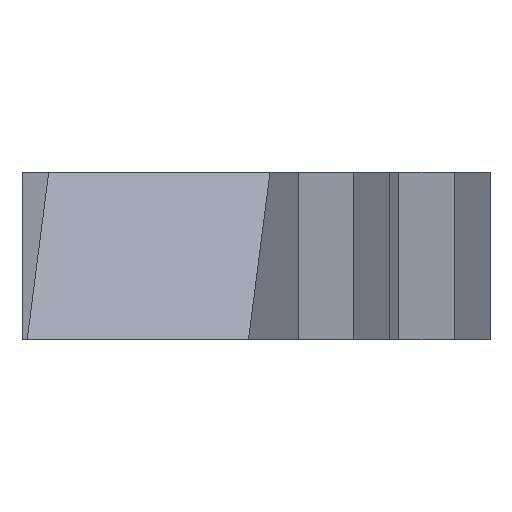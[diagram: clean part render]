
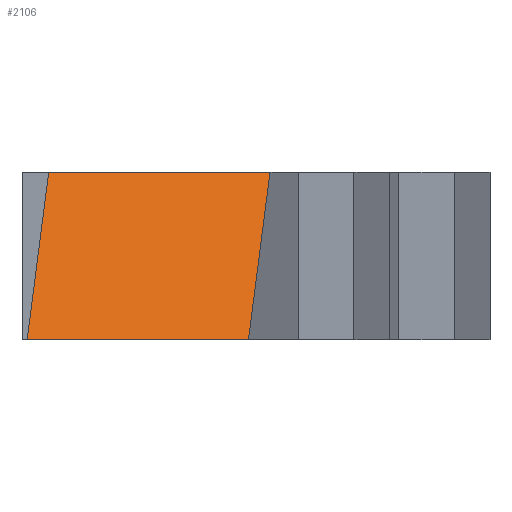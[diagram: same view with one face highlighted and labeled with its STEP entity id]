
A CAD part, left-side view. The second image highlights one B-rep face of the part: STEP entity #2106.
In plain terms, the highlighted planar face has unit normal (-0.701, 0.091, 0.707).
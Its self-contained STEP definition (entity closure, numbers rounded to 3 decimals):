
#1091 = PLANE('',#1092);
#1092 = AXIS2_PLACEMENT_3D('',#1093,#1094,#1095);
#1093 = CARTESIAN_POINT('',(-32.644,4.209,-5.75));
#1094 = DIRECTION('',(0.,0.,1.));
#1095 = DIRECTION('',(0.992,-0.128,0.));
#1250 = PLANE('',#1251);
#1251 = AXIS2_PLACEMENT_3D('',#1252,#1253,#1254);
#1252 = CARTESIAN_POINT('',(-32.644,4.209,-2.75));
#1253 = DIRECTION('',(0.,0.,1.));
#1254 = DIRECTION('',(0.992,-0.128,0.));
#1747 = EDGE_CURVE('',#1748,#1750,#1752,.T.);
#1748 = VERTEX_POINT('',#1749);
#1749 = CARTESIAN_POINT('',(-32.644,4.209,-5.75));
#1750 = VERTEX_POINT('',#1751);
#1751 = CARTESIAN_POINT('',(-32.131,8.176,-5.75));
#1752 = SURFACE_CURVE('',#1753,(#1757,#1764),.PCURVE_S1.);
#1753 = LINE('',#1754,#1755);
#1754 = CARTESIAN_POINT('',(-32.644,4.209,-5.75));
#1755 = VECTOR('',#1756,1.);
#1756 = DIRECTION('',(0.128,0.992,0.));
#1757 = PCURVE('',#1091,#1758);
#1758 = DEFINITIONAL_REPRESENTATION('',(#1759),#1763);
#1759 = LINE('',#1760,#1761);
#1760 = CARTESIAN_POINT('',(0.,0.));
#1761 = VECTOR('',#1762,1.);
#1762 = DIRECTION('',(0.,1.));
#1763 = ( GEOMETRIC_REPRESENTATION_CONTEXT(2) 
PARAMETRIC_REPRESENTATION_CONTEXT() REPRESENTATION_CONTEXT('2D SPACE',''
  ) );
#1764 = PCURVE('',#1765,#1770);
#1765 = PLANE('',#1766);
#1766 = AXIS2_PLACEMENT_3D('',#1767,#1768,#1769);
#1767 = CARTESIAN_POINT('',(-29.302,2.768,-2.25));
#1768 = DIRECTION('',(-0.701,0.091,0.707)
  );
#1769 = DIRECTION('',(-0.701,0.091,-0.707
    ));
#1770 = DEFINITIONAL_REPRESENTATION('',(#1771),#1775);
#1771 = LINE('',#1772,#1773);
#1772 = CARTESIAN_POINT('',(4.95,-1.));
#1773 = VECTOR('',#1774,1.);
#1774 = DIRECTION('',(0.,-1.));
#1775 = ( GEOMETRIC_REPRESENTATION_CONTEXT(2) 
PARAMETRIC_REPRESENTATION_CONTEXT() REPRESENTATION_CONTEXT('2D SPACE',''
  ) );
#1791 = PLANE('',#1792);
#1792 = AXIS2_PLACEMENT_3D('',#1793,#1794,#1795);
#1793 = CARTESIAN_POINT('',(-32.644,4.209,-5.75));
#1794 = DIRECTION('',(0.128,0.992,0.));
#1795 = DIRECTION('',(0.,0.,1.));
#1818 = PLANE('',#1819);
#1819 = AXIS2_PLACEMENT_3D('',#1820,#1821,#1822);
#1820 = CARTESIAN_POINT('',(-32.131,8.176,-5.75));
#1821 = DIRECTION('',(0.128,0.992,0.));
#1822 = DIRECTION('',(0.,0.,1.));
#2013 = VERTEX_POINT('',#2014);
#2014 = CARTESIAN_POINT('',(-29.156,7.791,-2.75));
#2035 = EDGE_CURVE('',#2013,#2036,#2038,.T.);
#2036 = VERTEX_POINT('',#2037);
#2037 = CARTESIAN_POINT('',(-29.669,3.824,-2.75));
#2038 = SURFACE_CURVE('',#2039,(#2043,#2050),.PCURVE_S1.);
#2039 = LINE('',#2040,#2041);
#2040 = CARTESIAN_POINT('',(-29.733,3.328,-2.75));
#2041 = VECTOR('',#2042,1.);
#2042 = DIRECTION('',(-0.128,-0.992,0.));
#2043 = PCURVE('',#1250,#2044);
#2044 = DEFINITIONAL_REPRESENTATION('',(#2045),#2049);
#2045 = LINE('',#2046,#2047);
#2046 = CARTESIAN_POINT('',(3.,-0.5));
#2047 = VECTOR('',#2048,1.);
#2048 = DIRECTION('',(0.,-1.));
#2049 = ( GEOMETRIC_REPRESENTATION_CONTEXT(2) 
PARAMETRIC_REPRESENTATION_CONTEXT() REPRESENTATION_CONTEXT('2D SPACE',''
  ) );
#2050 = PCURVE('',#1765,#2051);
#2051 = DEFINITIONAL_REPRESENTATION('',(#2052),#2056);
#2052 = LINE('',#2053,#2054);
#2053 = CARTESIAN_POINT('',(0.707,-0.5));
#2054 = VECTOR('',#2055,1.);
#2055 = DIRECTION('',(0.,1.));
#2056 = ( GEOMETRIC_REPRESENTATION_CONTEXT(2) 
PARAMETRIC_REPRESENTATION_CONTEXT() REPRESENTATION_CONTEXT('2D SPACE',''
  ) );
#2106 = ADVANCED_FACE('',(#2107),#1765,.T.);
#2107 = FACE_BOUND('',#2108,.T.);
#2108 = EDGE_LOOP('',(#2109,#2110,#2131,#2132));
#2109 = ORIENTED_EDGE('',*,*,#1747,.F.);
#2110 = ORIENTED_EDGE('',*,*,#2111,.T.);
#2111 = EDGE_CURVE('',#1748,#2036,#2112,.T.);
#2112 = SURFACE_CURVE('',#2113,(#2117,#2124),.PCURVE_S1.);
#2113 = LINE('',#2114,#2115);
#2114 = CARTESIAN_POINT('',(-30.909,3.984,-4.));
#2115 = VECTOR('',#2116,1.);
#2116 = DIRECTION('',(0.701,-0.091,0.707)
  );
#2117 = PCURVE('',#1765,#2118);
#2118 = DEFINITIONAL_REPRESENTATION('',(#2119),#2123);
#2119 = LINE('',#2120,#2121);
#2120 = CARTESIAN_POINT('',(2.475,-1.));
#2121 = VECTOR('',#2122,1.);
#2122 = DIRECTION('',(-1.,0.));
#2123 = ( GEOMETRIC_REPRESENTATION_CONTEXT(2) 
PARAMETRIC_REPRESENTATION_CONTEXT() REPRESENTATION_CONTEXT('2D SPACE',''
  ) );
#2124 = PCURVE('',#1791,#2125);
#2125 = DEFINITIONAL_REPRESENTATION('',(#2126),#2130);
#2126 = LINE('',#2127,#2128);
#2127 = CARTESIAN_POINT('',(1.75,1.75));
#2128 = VECTOR('',#2129,1.);
#2129 = DIRECTION('',(0.707,0.707));
#2130 = ( GEOMETRIC_REPRESENTATION_CONTEXT(2) 
PARAMETRIC_REPRESENTATION_CONTEXT() REPRESENTATION_CONTEXT('2D SPACE',''
  ) );
#2131 = ORIENTED_EDGE('',*,*,#2035,.F.);
#2132 = ORIENTED_EDGE('',*,*,#2133,.F.);
#2133 = EDGE_CURVE('',#1750,#2013,#2134,.T.);
#2134 = SURFACE_CURVE('',#2135,(#2139,#2146),.PCURVE_S1.);
#2135 = LINE('',#2136,#2137);
#2136 = CARTESIAN_POINT('',(-30.395,7.951,-4.));
#2137 = VECTOR('',#2138,1.);
#2138 = DIRECTION('',(0.701,-0.091,0.707)
  );
#2139 = PCURVE('',#1765,#2140);
#2140 = DEFINITIONAL_REPRESENTATION('',(#2141),#2145);
#2141 = LINE('',#2142,#2143);
#2142 = CARTESIAN_POINT('',(2.475,-5.));
#2143 = VECTOR('',#2144,1.);
#2144 = DIRECTION('',(-1.,0.));
#2145 = ( GEOMETRIC_REPRESENTATION_CONTEXT(2) 
PARAMETRIC_REPRESENTATION_CONTEXT() REPRESENTATION_CONTEXT('2D SPACE',''
  ) );
#2146 = PCURVE('',#1818,#2147);
#2147 = DEFINITIONAL_REPRESENTATION('',(#2148),#2152);
#2148 = LINE('',#2149,#2150);
#2149 = CARTESIAN_POINT('',(1.75,1.75));
#2150 = VECTOR('',#2151,1.);
#2151 = DIRECTION('',(0.707,0.707));
#2152 = ( GEOMETRIC_REPRESENTATION_CONTEXT(2) 
PARAMETRIC_REPRESENTATION_CONTEXT() REPRESENTATION_CONTEXT('2D SPACE',''
  ) );
